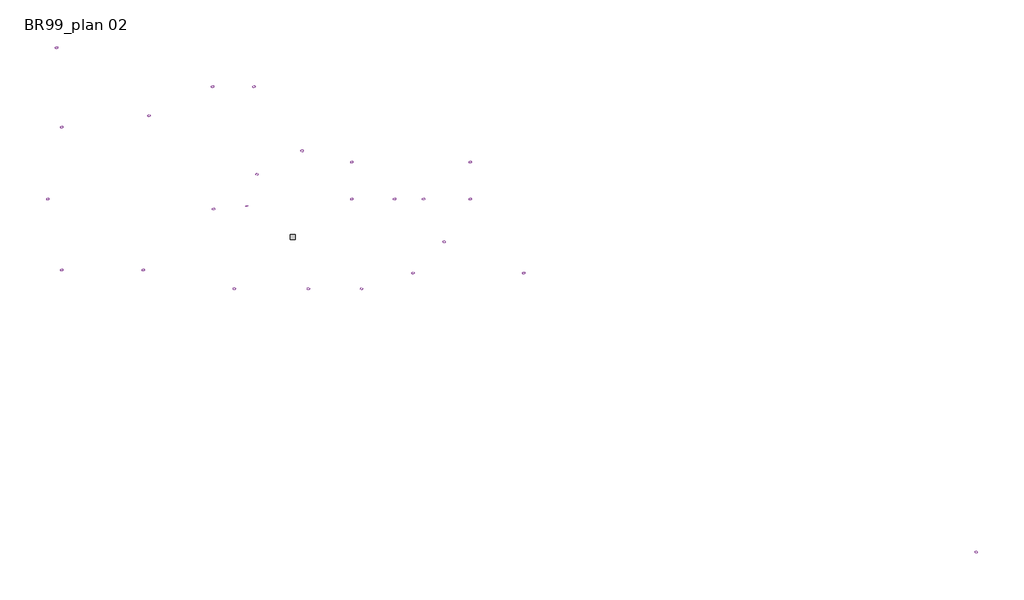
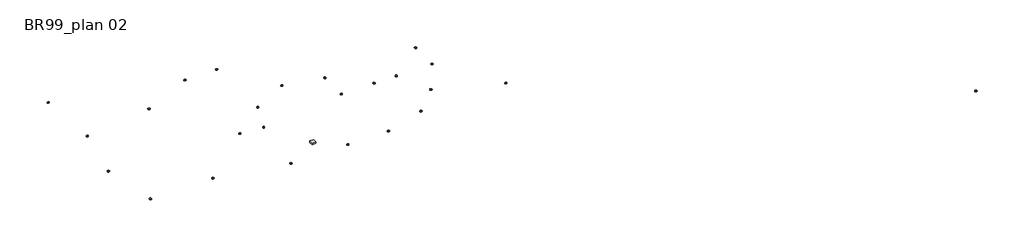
# One storey: 26 alarms.
"""IFC4 building model written with IfcOpenShell, lengths in millimetres."""

import ifcopenshell
import ifcopenshell.guid

model = None  # the IFC model being written
_history = None  # IfcOwnerHistory: only IFC2X3 demands one
_inside = {}  # id of a spatial element -> (the spatial element, [elements in it])
_under = {}  # id of a project, library or spatial element -> (it, [spatial elements below it])
_declared = {}  # id of a project -> (the project, [libraries it declares])
_typed = {}  # id of a type object -> (the type object, [elements of that type])
_made_of = {}  # id of a material, layer set ... -> (it, [elements and type objects made of it])


def new_model(schema):
    """Start an empty IFC model of exactly this schema.

    Asked for "IFC4X3", IfcOpenShell would pick the latest addendum, in which some entities
    have other attributes; the version numbers below select the first issue.
    IFC2X3 requires an IfcOwnerHistory on every rooted entity: one is made here for all.
    """
    global model, _history
    if schema == "IFC4X3":
        model = ifcopenshell.file(schema_version=(4, 3, 0, 0))
    else:
        model = ifcopenshell.file(schema=schema)
    _inside.clear()
    _under.clear()
    _declared.clear()
    _typed.clear()
    _made_of.clear()
    _history = None
    if model.schema == "IFC2X3":
        org = make("IfcOrganization", Name="unknown")
        user = make(
            "IfcPersonAndOrganization",
            ThePerson=make("IfcPerson", FamilyName="unknown"),
            TheOrganization=org,
        )
        app = make(
            "IfcApplication",
            ApplicationDeveloper=org,
            Version="unknown",
            ApplicationFullName="unknown",
            ApplicationIdentifier="unknown",
        )
        _history = make(
            "IfcOwnerHistory",
            OwningUser=user,
            OwningApplication=app,
            ChangeAction="ADDED",
            CreationDate=0,
        )
    return model


def make(cls, **values):
    """One entity of the class cls with the attributes given. An attribute that is None is left unset."""
    return model.create_entity(
        cls, **{name: value for name, value in values.items() if value is not None}
    )


def rooted(cls, **values):
    """An entity with a GlobalId (a new one), such as an element, a storey or a relation."""
    return make(cls, GlobalId=ifcopenshell.guid.new(), OwnerHistory=_history, **values)


def si_unit(unit_type, name, prefix=None):
    """IfcSIUnit, for example si_unit("LENGTHUNIT", "METRE", prefix="MILLI")."""
    return make("IfcSIUnit", UnitType=unit_type, Prefix=prefix, Name=name)


def assignment(units):
    """IfcUnitAssignment: the units of a project."""
    return None if units is None else make("IfcUnitAssignment", Units=units)


def point(xyz):
    """IfcCartesianPoint."""
    return None if xyz is None else make("IfcCartesianPoint", Coordinates=xyz)


def direction(xyz):
    """IfcDirection."""
    return None if xyz is None else make("IfcDirection", DirectionRatios=xyz)


def frame(location, z_axis=None, x_axis=None):
    """IfcAxis2Placement3D, a coordinate frame: its origin and axes. An axis left out is left unset."""
    return make(
        "IfcAxis2Placement3D",
        Location=point(location),
        Axis=direction(z_axis),
        RefDirection=direction(x_axis),
    )


def frame_2d(location, x_axis=None):
    """IfcAxis2Placement2D, a coordinate frame in the plane: its origin and x axis."""
    return make(
        "IfcAxis2Placement2D", Location=point(location), RefDirection=direction(x_axis)
    )


def origin():
    """The frame at (0, 0, 0) with its axes left unset."""
    return frame((0.0, 0.0, 0.0))


def place(relative_to, where):
    """IfcLocalPlacement: puts the frame where relative to a parent placement (None: the world)."""
    return make(
        "IfcLocalPlacement", PlacementRelTo=relative_to, RelativePlacement=where
    )


def context(
    kind, dimensions, precision=None, world=None, true_north=None, identifier=None
):
    """IfcGeometricRepresentationContext, for example the 3D "Model" context."""
    return make(
        "IfcGeometricRepresentationContext",
        ContextIdentifier=identifier,
        ContextType=kind,
        CoordinateSpaceDimension=dimensions,
        Precision=precision,
        WorldCoordinateSystem=world,
        TrueNorth=true_north,
    )


def project(units=None, contexts=None):
    """IfcProject with its units and contexts."""
    return rooted(
        "IfcProject",
        Name="project",
        RepresentationContexts=contexts,
        UnitsInContext=assignment(units),
    )


def spatial(cls, under=None, at=None, **own):
    """A site, building, storey or space (cls), placed at a placement, below another one or the project."""
    s = rooted(cls, ObjectPlacement=at, **own)
    if under is not None:
        _under.setdefault(under.id(), (under, []))[1].append(s)
    return s


def polyline(points):
    """IfcPolyline through the points."""
    return make("IfcPolyline", Points=[point(p) for p in points])


def circle_curve(where, radius):
    """IfcCircle in the frame where."""
    return make("IfcCircle", Position=where, Radius=radius)


def ellipse_curve(where, semi_axis1, semi_axis2):
    """IfcEllipse in the frame where."""
    return make(
        "IfcEllipse", Position=where, SemiAxis1=semi_axis1, SemiAxis2=semi_axis2
    )


def trimmed(basis, trim1, trim2, sense, master):
    """IfcTrimmedCurve: the piece of a basis curve between two trims."""
    return make(
        "IfcTrimmedCurve",
        BasisCurve=basis,
        Trim1=trim1,
        Trim2=trim2,
        SenseAgreement=sense,
        MasterRepresentation=master,
    )


def segment(curve, same_sense, transition):
    """IfcCompositeCurveSegment."""
    return make(
        "IfcCompositeCurveSegment",
        Transition=transition,
        SameSense=same_sense,
        ParentCurve=curve,
    )


def composite_curve(segments, self_intersect=None):
    """IfcCompositeCurve: segments joined end to end."""
    return make("IfcCompositeCurve", Segments=segments, SelfIntersect=self_intersect)


def outline(outer, holes=None, kind="AREA"):
    """IfcArbitraryClosedProfileDef: a profile drawn as a closed curve; with holes, ...WithVoids."""
    if holes is None:
        return make("IfcArbitraryClosedProfileDef", ProfileType=kind, OuterCurve=outer)
    return make(
        "IfcArbitraryProfileDefWithVoids",
        ProfileType=kind,
        OuterCurve=outer,
        InnerCurves=holes,
    )


def extrude(swept, where, along, depth):
    """IfcExtrudedAreaSolid: the profile swept, set in the frame where, extruded along a direction by depth."""
    return make(
        "IfcExtrudedAreaSolid",
        SweptArea=swept,
        Position=where,
        ExtrudedDirection=direction(along),
        Depth=depth,
    )


def shape(context_of_items, identifier, shape_type, items):
    """IfcShapeRepresentation: the items that make up one representation, for example the "Body"."""
    return make(
        "IfcShapeRepresentation",
        ContextOfItems=context_of_items,
        RepresentationIdentifier=identifier,
        RepresentationType=shape_type,
        Items=items,
    )


def source(mapping_origin, context_of_items, identifier, shape_type, items):
    """IfcRepresentationMap: a shape defined once, which mapped items show again and again."""
    return make(
        "IfcRepresentationMap",
        MappingOrigin=mapping_origin,
        MappedRepresentation=shape(context_of_items, identifier, shape_type, items),
    )


def transform(
    local_origin,
    x_axis=None,
    y_axis=None,
    z_axis=None,
    scale=None,
    scale2=None,
    scale3=None,
    uniform=True,
):
    """IfcCartesianTransformationOperator3D, or its non-uniform kind. x_axis, y_axis, z_axis: its Axis1, 2, 3."""
    if uniform:
        return make(
            "IfcCartesianTransformationOperator3D",
            Axis1=direction(x_axis),
            Axis2=direction(y_axis),
            LocalOrigin=point(local_origin),
            Scale=scale,
            Axis3=direction(z_axis),
        )
    return make(
        "IfcCartesianTransformationOperator3DnonUniform",
        Axis1=direction(x_axis),
        Axis2=direction(y_axis),
        LocalOrigin=point(local_origin),
        Scale=scale,
        Axis3=direction(z_axis),
        Scale2=scale2,
        Scale3=scale3,
    )


def mapped(mapping_source, mapping_target):
    """IfcMappedItem: shows the shape of a source again, moved by a transform."""
    return make(
        "IfcMappedItem", MappingSource=mapping_source, MappingTarget=mapping_target
    )


def made_of(thing, what):
    """Note that an element or type object is made of a material, layer set ...; save() writes the relation."""
    if what is not None:
        _made_of.setdefault(what.id(), (what, []))[1].append(thing)
    return thing


def element(
    cls,
    number,
    at=None,
    inside=None,
    cuts=None,
    type_object=None,
    material=None,
    context=None,
    identifier="Body",
    shape_type=None,
    held_by="IfcProductDefinitionShape",
    body=None,
    shapes=None,
    **own,
):
    """One element of the class cls, such as IfcWall. Its Tag is "e" and its number.

    at: its placement. inside: the storey or other place that contains it. cuts: it is an
    opening in that element (IfcRelVoidsElement). A single representation is given by context,
    identifier, shape_type and body (its items); several are given by shapes. held_by: the class
    of the entity that holds the representations. save() writes the other relations.
    """
    e = rooted(cls, Tag="e%d" % number, ObjectPlacement=at, **own)
    if body is not None:
        shapes = [shape(context, identifier, shape_type, body)]
    if shapes is not None:
        e.Representation = make(held_by, Representations=shapes)
    if inside is not None:
        _inside.setdefault(inside.id(), (inside, []))[1].append(e)
    if cuts is not None:
        rooted(
            "IfcRelVoidsElement", RelatingBuildingElement=cuts, RelatedOpeningElement=e
        )
    if type_object is not None:
        _typed.setdefault(type_object.id(), (type_object, []))[1].append(e)
    return made_of(e, material)


def aggregate(whole, parts):
    """IfcRelAggregates: a whole, such as a stair, and the parts it consists of."""
    return rooted("IfcRelAggregates", RelatingObject=whole, RelatedObjects=parts)


def save(model, path):
    """Write the relations noted so far, then the file.

    IfcRelAggregates (storeys below a building ...), IfcRelContainedInSpatialStructure (elements
    in a storey), IfcRelDefinesByType, IfcRelAssociatesMaterial and IfcRelDeclares: one each for
    every whole, place, type object, material and project.
    """
    for whole, parts in _under.values():
        aggregate(whole, parts)
    for where, things in _inside.values():
        rooted(
            "IfcRelContainedInSpatialStructure",
            RelatedElements=things,
            RelatingStructure=where,
        )
    for kind, things in _typed.values():
        rooted("IfcRelDefinesByType", RelatedObjects=things, RelatingType=kind)
    for what, things in _made_of.values():
        rooted("IfcRelAssociatesMaterial", RelatedObjects=things, RelatingMaterial=what)
    for by, libraries in _declared.values():
        rooted("IfcRelDeclares", RelatingContext=by, RelatedDefinitions=libraries)
    model.write(path)


def plane_surface(at):
    """IfcPlane: the flat surface through the origin of the frame at, square to its z axis."""
    return make("IfcPlane", Position=at)


def cylinder_surface(at, radius):
    """IfcCylindricalSurface: all points at the distance radius from the z axis of the frame at."""
    return make("IfcCylindricalSurface", Position=at, Radius=radius)


def revolved_surface(curve, axis_point, axis_direction):
    """IfcSurfaceOfRevolution: the curve turned about the line through axis_point along axis_direction."""
    return make(
        "IfcSurfaceOfRevolution",
        SweptCurve=make("IfcArbitraryOpenProfileDef", ProfileType="CURVE", Curve=curve),
        AxisPosition=make("IfcAxis1Placement", Location=point(axis_point), Axis=direction(axis_direction)),
    )


def advanced_brep(points, edges, surfaces, faces):
    """IfcAdvancedBrep: a solid bounded by faces that lie on surfaces and meet in shared edges.

    An edge is (start, end): straight between two places in points (the first is 0);
    or (start, end, curve); or (start, end, curve, False) where it runs against its curve.
    A face is (place in surfaces, loops), or (place, loops, False) where it looks against
    its surface's normal. A loop lists edges by number (the first is 1), with a minus sign
    where the edge is run from its end to its start. The first loop is the outer one.
    """
    corners = [point(p) for p in points]
    vertices = [make("IfcVertexPoint", VertexGeometry=c) for c in corners]
    made = []
    for start, end, *more in edges:
        made.append(
            make(
                "IfcEdgeCurve",
                EdgeStart=vertices[start],
                EdgeEnd=vertices[end],
                EdgeGeometry=more[0] if more else make("IfcPolyline", Points=[corners[start], corners[end]]),
                SameSense=more[1] if len(more) > 1 else True,
            )
        )
    hull = []
    for where, loops, *sense in faces:
        bounds = []
        for j, loop in enumerate(loops):
            ring = [make("IfcOrientedEdge", EdgeElement=made[abs(k) - 1], Orientation=k > 0) for k in loop]
            bounds.append(
                make(
                    "IfcFaceOuterBound" if j == 0 else "IfcFaceBound",
                    Bound=make("IfcEdgeLoop", EdgeList=ring),
                    Orientation=True,
                )
            )
        hull.append(make("IfcAdvancedFace", Bounds=bounds, FaceSurface=surfaces[where], SameSense=sense[0] if sense else True))
    return make("IfcAdvancedBrep", Outer=make("IfcClosedShell", CfsFaces=hull))


def alarm_2d409914(model_context):
    return source(origin(), model_context, "Body", "SolidModel", [
        advanced_brep(
        [(0.0, -25.0, 1950.0), (50.0, -25.0, 1950.0), (-50.0, -25.0, 1950.0), (-14.3707549, -61.8201941, 1950.0), (14.3707549, -61.8201941, 1950.0), (0.0, -61.8201941, 1950.0), (-14.3707549, -56.8201941, 1950.0), (14.3707549, -56.8201941, 1950.0), (-29.3707549, -56.8201941, 1950.0), (29.3707549, -56.8201941, 1950.0), (-29.3707549, -61.8201941, 1950.0), (29.3707549, -61.8201941, 1950.0), (-34.3707549, -61.8201941, 1950.0), (34.3707549, -61.8201941, 1950.0)],
        [
            (0, 1),
            (1, 2, circle_curve(frame((0.0, -25.0, 1950.0), z_axis=(0.0, 1.0, 0.0), x_axis=(1.0, 0.0, 0.0)), 50.0)),
            (2, 0),
            (2, 1, circle_curve(frame((0.0, -25.0, 1950.0), z_axis=(0.0, 1.0, 0.0), x_axis=(1.0, 0.0, 0.0)), 50.0)),
            (3, 4, circle_curve(frame((0.0, -61.8201941, 1950.0), z_axis=(0.0, -1.0, 0.0), x_axis=(1.0, 0.0, 0.0)), 14.3707549)),
            (4, 5),
            (5, 3),
            (4, 3, circle_curve(frame((0.0, -61.8201941, 1950.0), z_axis=(0.0, -1.0, 0.0), x_axis=(1.0, 0.0, 0.0)), 14.3707549)),
            (6, 7, circle_curve(frame((0.0, -56.8201941, 1950.0), z_axis=(0.0, -1.0, 0.0), x_axis=(1.0, 0.0, 0.0)), 14.3707549)),
            (7, 4),
            (3, 6),
            (7, 6, circle_curve(frame((0.0, -56.8201941, 1950.0), z_axis=(0.0, -1.0, 0.0), x_axis=(1.0, 0.0, 0.0)), 14.3707549)),
            (8, 9, circle_curve(frame((0.0, -56.8201941, 1950.0), z_axis=(0.0, -1.0, 0.0), x_axis=(1.0, 0.0, 0.0)), 29.3707549)),
            (9, 7),
            (6, 8),
            (9, 8, circle_curve(frame((0.0, -56.8201941, 1950.0), z_axis=(0.0, -1.0, 0.0), x_axis=(1.0, 0.0, 0.0)), 29.3707549)),
            (10, 11, circle_curve(frame((0.0, -61.8201941, 1950.0), z_axis=(0.0, -1.0, 0.0), x_axis=(1.0, 0.0, 0.0)), 29.3707549)),
            (11, 9),
            (8, 10),
            (11, 10, circle_curve(frame((0.0, -61.8201941, 1950.0), z_axis=(0.0, -1.0, 0.0), x_axis=(1.0, 0.0, 0.0)), 29.3707549)),
            (12, 13, circle_curve(frame((0.0, -61.8201941, 1950.0), z_axis=(0.0, -1.0, 0.0), x_axis=(1.0, 0.0, 0.0)), 34.3707549)),
            (13, 11),
            (10, 12),
            (13, 12, circle_curve(frame((0.0, -61.8201941, 1950.0), z_axis=(0.0, -1.0, 0.0), x_axis=(1.0, 0.0, 0.0)), 34.3707549)),
            (1, 13, circle_curve(frame((-4.2691398, -23.6913244, 1950.0), z_axis=(0.0, 0.0, -1.0), x_axis=(1.0, 0.0, 0.0)), 54.2849166)),
            (12, 2, circle_curve(frame((4.2691398, -23.6913244, 1950.0), z_axis=(0.0, 0.0, -1.0), x_axis=(-1.0, 0.0, 0.0)), 54.2849166)),
        ],
        [
            plane_surface(frame((0.0, -25.0, 1950.0), z_axis=(0.0, 1.0, 0.0), x_axis=(1.0, 0.0, 0.0))),
            plane_surface(frame((0.0, -61.8201941, 1950.0), z_axis=(0.0, -1.0, 0.0), x_axis=(1.0, 0.0, 0.0))),
            cylinder_surface(frame((0.0, 0.0, 1950.0), z_axis=(0.0, 1.0, 0.0), x_axis=(1.0, 0.0, 0.0)), 14.3707549),
            plane_surface(frame((0.0, -56.8201941, 1950.0), z_axis=(0.0, -1.0, 0.0), x_axis=(1.0, 0.0, 0.0))),
            revolved_surface(polyline([(29.3707549, -56.8201941, 1950.0), (29.3707549, -61.8201941, 1950.0)]), (0.0, 0.0, 1950.0), (0.0, 1.0, 0.0)),
            revolved_surface(trimmed(ellipse_curve(frame((-4.2691398, -23.6913244, 1950.0), z_axis=(0.0, 0.0, 1.0), x_axis=(1.0, 0.0, 0.0)), 54.2849166, 54.2849166), [point((34.3707549, -61.8201941, 1950.0))], [point((50.0, -25.0, 1950.0))], True, "CARTESIAN"), (0.0, 0.0, 1950.0), (0.0, 1.0, 0.0)),
        ],
        [
            (0, [[1, 2, 3]]),
            (0, [[-3, 4, -1]]),
            (1, [[5, 6, 7]]),
            (1, [[8, -7, -6]]),
            (2, [[9, 10, -5, 11]]),
            (2, [[12, -11, -8, -10]]),
            (3, [[13, 14, -9, 15]]),
            (3, [[16, -15, -12, -14]]),
            (4, [[17, 18, -13, 19]]),
            (4, [[20, -19, -16, -18]]),
            (1, [[21, 22, -17, 23]]),
            (1, [[24, -23, -20, -22]]),
            (5, [[-2, 25, -21, 26]]),
            (5, [[-4, -26, -24, -25]]),
        ],
    ),
        extrude(outline(composite_curve([segment(trimmed(circle_curve(frame_2d((1950.0, 0.0)), 50.0), [point((1950.0, -50.0))], [point((1950.0, 50.0))], False, "CARTESIAN"), True, "CONTINUOUS"), segment(trimmed(circle_curve(frame_2d((1950.0, 0.0)), 50.0), [point((1950.0, 50.0))], [point((1950.0, -50.0))], False, "CARTESIAN"), True, "CONTINUOUS")], self_intersect=False)), frame((0.0, -25.0, 0.0), z_axis=(0.0, 1.0, 0.0), x_axis=(0.0, 0.0, 1.0)), (0.0, 0.0, 1.0), 25.0),
    ])


def alarm_d4f96eb5(model_context):
    return source(origin(), model_context, "Body", "AdvancedBrep", [
        advanced_brep(
        [(-60.0, 0.0, 2172.6505767), (60.0, 0.0, 2172.6505767), (55.0, 0.0, 2172.6505767), (-55.0, 0.0, 2172.6505767), (-60.0, 0.0, 2200.0), (60.0, 0.0, 2200.0), (0.0, 0.0, 2200.0), (-45.0, 0.0, 2152.6505767), (45.0, 0.0, 2152.6505767), (0.0, 0.0, 2152.6505767), (-45.0, 0.0, 2162.6505767), (45.0, 0.0, 2162.6505767), (-55.0, 0.0, 2162.6505767), (55.0, 0.0, 2162.6505767)],
        [
            (0, 1, circle_curve(frame((0.0, 0.0, 2172.6505767), z_axis=(0.0, 0.0, -1.0), x_axis=(1.0, 0.0, 0.0)), 60.0)),
            (1, 2),
            (2, 3, circle_curve(frame((0.0, 0.0, 2172.6505767), z_axis=(0.0, 0.0, 1.0), x_axis=(1.0, 0.0, 0.0)), 55.0)),
            (3, 0),
            (1, 0, circle_curve(frame((0.0, 0.0, 2172.6505767), z_axis=(0.0, 0.0, -1.0), x_axis=(1.0, 0.0, 0.0)), 60.0)),
            (3, 2, circle_curve(frame((0.0, 0.0, 2172.6505767), z_axis=(0.0, 0.0, 1.0), x_axis=(1.0, 0.0, 0.0)), 55.0)),
            (4, 5, circle_curve(frame((0.0, 0.0, 2200.0), z_axis=(0.0, 0.0, -1.0), x_axis=(1.0, 0.0, 0.0)), 60.0)),
            (5, 1),
            (0, 4),
            (5, 4, circle_curve(frame((0.0, 0.0, 2200.0), z_axis=(0.0, 0.0, -1.0), x_axis=(1.0, 0.0, 0.0)), 60.0)),
            (6, 5),
            (4, 6),
            (7, 8, circle_curve(frame((0.0, 0.0, 2152.6505767), z_axis=(0.0, 0.0, -1.0), x_axis=(1.0, 0.0, 0.0)), 45.0)),
            (8, 9),
            (9, 7),
            (8, 7, circle_curve(frame((0.0, 0.0, 2152.6505767), z_axis=(0.0, 0.0, -1.0), x_axis=(1.0, 0.0, 0.0)), 45.0)),
            (10, 11, circle_curve(frame((0.0, 0.0, 2162.6505767), z_axis=(0.0, 0.0, -1.0), x_axis=(1.0, 0.0, 0.0)), 45.0)),
            (11, 8),
            (7, 10),
            (11, 10, circle_curve(frame((0.0, 0.0, 2162.6505767), z_axis=(0.0, 0.0, -1.0), x_axis=(1.0, 0.0, 0.0)), 45.0)),
            (12, 13, circle_curve(frame((0.0, 0.0, 2162.6505767), z_axis=(0.0, 0.0, -1.0), x_axis=(1.0, 0.0, 0.0)), 55.0)),
            (13, 11),
            (10, 12),
            (13, 12, circle_curve(frame((0.0, 0.0, 2162.6505767), z_axis=(0.0, 0.0, -1.0), x_axis=(1.0, 0.0, 0.0)), 55.0)),
            (2, 13),
            (12, 3),
        ],
        [
            plane_surface(frame((0.0, 0.0, 2172.6505767), z_axis=(0.0, 0.0, -1.0), x_axis=(1.0, 0.0, 0.0))),
            cylinder_surface(frame((0.0, 0.0, 2152.6505767), z_axis=(0.0, 0.0, 1.0), x_axis=(1.0, 0.0, 0.0)), 60.0),
            plane_surface(frame((0.0, 0.0, 2200.0), z_axis=(0.0, 0.0, 1.0), x_axis=(1.0, 0.0, 0.0))),
            plane_surface(frame((0.0, 0.0, 2152.6505767), z_axis=(0.0, 0.0, -1.0), x_axis=(1.0, 0.0, 0.0))),
            cylinder_surface(frame((0.0, 0.0, 2152.6505767), z_axis=(0.0, 0.0, 1.0), x_axis=(1.0, 0.0, 0.0)), 45.0),
            plane_surface(frame((0.0, 0.0, 2162.6505767), z_axis=(0.0, 0.0, -1.0), x_axis=(1.0, 0.0, 0.0))),
            cylinder_surface(frame((0.0, 0.0, 2152.6505767), z_axis=(0.0, 0.0, 1.0), x_axis=(1.0, 0.0, 0.0)), 55.0),
        ],
        [
            (0, [[1, 2, 3, 4]]),
            (0, [[5, -4, 6, -2]]),
            (1, [[7, 8, -1, 9]]),
            (1, [[10, -9, -5, -8]]),
            (2, [[11, -7, 12]]),
            (2, [[-12, -10, -11]]),
            (3, [[13, 14, 15]]),
            (3, [[16, -15, -14]]),
            (4, [[17, 18, -13, 19]]),
            (4, [[20, -19, -16, -18]]),
            (5, [[21, 22, -17, 23]]),
            (5, [[24, -23, -20, -22]]),
            (6, [[-3, 25, -21, 26]]),
            (6, [[-6, -26, -24, -25]]),
        ],
    ),
    ])


def alarm_f33bc343(model_context):
    return source(origin(), model_context, "Body", "SweptSolid", [
        extrude(outline(polyline([(112.0750626, 112.0073303), (112.0750626, -111.5662175), (-111.4984851, -111.5662175), (-111.4984851, 112.0073303), (112.0750626, 112.0073303)])), frame((0.0, 0.0, 1100.0), z_axis=(0.0, 0.0, 1.0), x_axis=(1.0, 0.0, 0.0)), (0.0, 0.0, 1.0), 100.0),
    ])


model = new_model("IFC4")

# Units and contexts
model_context = context("Model", 3, world=origin())
ifc_project = project(units=[si_unit("LENGTHUNIT", "METRE", prefix="MILLI")], contexts=[model_context])

# Site, building, storey
site = spatial("IfcSite", under=ifc_project)
building = spatial("IfcBuilding", under=site)
storey = spatial("IfcBuildingStorey", under=building, Name="BR99_plan 02", Elevation=3000.0)

# Alarms
placement = place(None, origin())
alarm_shape = alarm_2d409914(model_context)
element("IfcAlarm", 1, ObjectType="Akustiskt larmdon : Akustiskt larmdon", at=placement, inside=storey, context=model_context, shape_type="MappedRepresentation", body=[
    mapped(alarm_shape, transform((-68653.1887978, -126024.8901624, 3000.0), x_axis=(1.0, 0.0, 0.0), y_axis=(0.0, 1.0, 0.0), z_axis=(0.0, 0.0, 1.0))),
])
alarm_2_shape = alarm_d4f96eb5(model_context)
element("IfcAlarm", 2, ObjectType="Rökdetektor : Rökdetektor", at=placement, inside=storey, context=model_context, shape_type="MappedRepresentation", body=[
    mapped(alarm_2_shape, transform((-77377.8523409, -118801.376786, 3000.0), x_axis=(1.0, 0.0, 0.0), y_axis=(0.0, 1.0, 0.0), z_axis=(0.0, 0.0, 1.0))),
])
element("IfcAlarm", 3, ObjectType="Rökdetektor : Rökdetektor", at=placement, inside=storey, context=model_context, shape_type="MappedRepresentation", body=[
    mapped(alarm_2_shape, transform((-77140.388201, -122446.6369405, 3000.0), x_axis=(1.0, 0.0, 0.0), y_axis=(0.0, 1.0, 0.0), z_axis=(0.0, 0.0, 1.0))),
])
element("IfcAlarm", 4, ObjectType="Rökdetektor : Rökdetektor", at=placement, inside=storey, context=model_context, shape_type="MappedRepresentation", body=[
    mapped(alarm_2_shape, transform((-68321.5608843, -120587.3901624, 3000.0), x_axis=(1.0, 0.0, 0.0), y_axis=(0.0, 1.0, 0.0), z_axis=(0.0, 0.0, 1.0))),
])
element("IfcAlarm", 5, ObjectType="Rökdetektor : Rökdetektor", at=placement, inside=storey, context=model_context, shape_type="MappedRepresentation", body=[
    mapped(alarm_2_shape, transform((-70219.4726069, -120587.3901624, 3000.0), x_axis=(1.0, 0.0, 0.0), y_axis=(0.0, 1.0, 0.0), z_axis=(0.0, 0.0, 1.0))),
])
element("IfcAlarm", 6, ObjectType="Rökdetektor : Rökdetektor", at=placement, inside=storey, context=model_context, shape_type="MappedRepresentation", body=[
    mapped(alarm_2_shape, transform((-77140.388201, -129003.5515613, 3000.0), x_axis=(1.0, 0.0, 0.0), y_axis=(0.0, 1.0, 0.0), z_axis=(0.0, 0.0, 1.0))),
])
element("IfcAlarm", 7, ObjectType="Rökdetektor : Rökdetektor", at=placement, inside=storey, context=model_context, shape_type="MappedRepresentation", body=[
    mapped(alarm_2_shape, transform((-73401.6534987, -129003.5515613, 3000.0), x_axis=(1.0, 0.0, 0.0), y_axis=(0.0, 1.0, 0.0), z_axis=(0.0, 0.0, 1.0))),
])
element("IfcAlarm", 8, ObjectType="Rökdetektor : Rökdetektor", at=placement, inside=storey, context=model_context, shape_type="MappedRepresentation", body=[
    mapped(alarm_2_shape, transform((-69227.4705523, -129865.8240948, 3000.0), x_axis=(1.0, 0.0, 0.0), y_axis=(0.0, 1.0, 0.0), z_axis=(0.0, 0.0, 1.0))),
])
element("IfcAlarm", 9, ObjectType="Rökdetektor : Rökdetektor", at=placement, inside=storey, context=model_context, shape_type="MappedRepresentation", body=[
    mapped(alarm_2_shape, transform((-77778.573077, -125743.856497, 3000.0), x_axis=(1.0, 0.0, 0.0), y_axis=(0.0, 1.0, 0.0), z_axis=(0.0, 0.0, 1.0))),
])
element("IfcAlarm", 10, ObjectType="Rökdetektor : Rökdetektor", at=placement, inside=storey, context=model_context, shape_type="MappedRepresentation", body=[
    mapped(alarm_2_shape, transform((-35181.4544108, -141955.3511046, 3000.0), x_axis=(1.0, 0.0, 0.0), y_axis=(0.0, 1.0, 0.0), z_axis=(0.0, 0.0, 1.0))),
])
element("IfcAlarm", 11, ObjectType="Rökdetektor : Rökdetektor", at=placement, inside=storey, context=model_context, shape_type="MappedRepresentation", body=[
    mapped(alarm_2_shape, transform((-73135.6663536, -121920.1064305, 3000.0), x_axis=(1.0, 0.0, 0.0), y_axis=(0.0, 1.0, 0.0), z_axis=(0.0, 0.0, 1.0))),
])
element("IfcAlarm", 12, ObjectType="Rökdetektor : Rökdetektor", at=placement, inside=storey, context=model_context, shape_type="MappedRepresentation", body=[
    mapped(alarm_2_shape, transform((-66114.4726069, -123530.9585152, 3000.0), x_axis=(1.0, 0.0, 0.0), y_axis=(0.0, 1.0, 0.0), z_axis=(0.0, 0.0, 1.0))),
])
element("IfcAlarm", 13, ObjectType="Rökdetektor : Rökdetektor", at=placement, inside=storey, context=model_context, shape_type="MappedRepresentation", body=[
    mapped(alarm_2_shape, transform((-65821.6585003, -129865.8240948, 3000.0), x_axis=(1.0, 0.0, 0.0), y_axis=(0.0, 1.0, 0.0), z_axis=(0.0, 0.0, 1.0))),
])
element("IfcAlarm", 14, ObjectType="Rökdetektor : Rökdetektor", at=placement, inside=storey, context=model_context, shape_type="MappedRepresentation", body=[
    mapped(alarm_2_shape, transform((-63384.8013403, -129865.8240948, 3000.0), x_axis=(1.0, 0.0, 0.0), y_axis=(0.0, 1.0, 0.0), z_axis=(0.0, 0.0, 1.0))),
])
element("IfcAlarm", 15, ObjectType="Rökdetektor : Rökdetektor", at=placement, inside=storey, context=model_context, shape_type="MappedRepresentation", body=[
    mapped(alarm_2_shape, transform((-61021.814304, -129147.2998239, 3000.0), x_axis=(1.0, 0.0, 0.0), y_axis=(0.0, 1.0, 0.0), z_axis=(0.0, 0.0, 1.0))),
])
element("IfcAlarm", 16, ObjectType="Rökdetektor : Rökdetektor", at=placement, inside=storey, context=model_context, shape_type="MappedRepresentation", body=[
    mapped(alarm_2_shape, transform((-55940.1249209, -129147.2998239, 3000.0), x_axis=(1.0, 0.0, 0.0), y_axis=(0.0, 1.0, 0.0), z_axis=(0.0, 0.0, 1.0))),
])
element("IfcAlarm", 17, ObjectType="Rökdetektor : Rökdetektor", at=placement, inside=storey, context=model_context, shape_type="MappedRepresentation", body=[
    mapped(alarm_2_shape, transform((-63828.3951701, -125743.856497, 3000.0), x_axis=(1.0, 0.0, 0.0), y_axis=(0.0, 1.0, 0.0), z_axis=(0.0, 0.0, 1.0))),
])
element("IfcAlarm", 18, ObjectType="Rökdetektor : Rökdetektor", at=placement, inside=storey, context=model_context, shape_type="MappedRepresentation", body=[
    mapped(alarm_2_shape, transform((-61867.7050115, -125743.856497, 3000.0), x_axis=(1.0, 0.0, 0.0), y_axis=(0.0, 1.0, 0.0), z_axis=(0.0, 0.0, 1.0))),
])
element("IfcAlarm", 19, ObjectType="Rökdetektor : Rökdetektor", at=placement, inside=storey, context=model_context, shape_type="MappedRepresentation", body=[
    mapped(alarm_2_shape, transform((-60538.0415706, -125743.856497, 3000.0), x_axis=(1.0, 0.0, 0.0), y_axis=(0.0, 1.0, 0.0), z_axis=(0.0, 0.0, 1.0))),
])
element("IfcAlarm", 20, ObjectType="Rökdetektor : Rökdetektor", at=placement, inside=storey, context=model_context, shape_type="MappedRepresentation", body=[
    mapped(alarm_2_shape, transform((-58397.058064, -124045.1085762, 3000.0), x_axis=(1.0, 0.0, 0.0), y_axis=(0.0, 1.0, 0.0), z_axis=(0.0, 0.0, 1.0))),
])
element("IfcAlarm", 21, ObjectType="Rökdetektor dold : Rökdetektor dold", at=placement, inside=storey, context=model_context, shape_type="MappedRepresentation", body=[
    mapped(alarm_2_shape, transform((-70175.1049769, -126201.3453746, 3000.0), x_axis=(1.0, 0.0, 0.0), y_axis=(0.0, 1.0, 0.0), z_axis=(0.0, 0.0, 1.0))),
])
element("IfcAlarm", 22, ObjectType="Rökdetektor dold : Rökdetektor dold", at=placement, inside=storey, context=model_context, shape_type="MappedRepresentation", body=[
    mapped(alarm_2_shape, transform((-59593.7215055, -127707.3951749, 3000.0), x_axis=(1.0, 0.0, 0.0), y_axis=(0.0, 1.0, 0.0), z_axis=(0.0, 0.0, 1.0))),
])
element("IfcAlarm", 23, ObjectType="Rökdetektor dold : Rökdetektor dold", at=placement, inside=storey, context=model_context, shape_type="MappedRepresentation", body=[
    mapped(alarm_2_shape, transform((-63828.3951701, -124045.1085762, 3000.0), x_axis=(1.0, 0.0, 0.0), y_axis=(0.0, 1.0, 0.0), z_axis=(0.0, 0.0, 1.0))),
])
element("IfcAlarm", 24, ObjectType="Rökdetektor dold : Rökdetektor dold", at=placement, inside=storey, context=model_context, shape_type="MappedRepresentation", body=[
    mapped(alarm_2_shape, transform((-58397.058064, -125743.856497, 3000.0), x_axis=(1.0, 0.0, 0.0), y_axis=(0.0, 1.0, 0.0), z_axis=(0.0, 0.0, 1.0))),
])
element("IfcAlarm", 25, ObjectType="Värmedetektor kapslad : Värmedetektor kapslad", at=placement, inside=storey, context=model_context, shape_type="MappedRepresentation", body=[
    mapped(alarm_2_shape, transform((-68181.3626798, -124613.6425469, 3000.0), x_axis=(1.0, 0.0, 0.0), y_axis=(0.0, 1.0, 0.0), z_axis=(0.0, 0.0, 1.0))),
])
alarm_3_shape = alarm_f33bc343(model_context)
element("IfcAlarm", 26, ObjectType="D1 : D1", at=placement, inside=storey, context=model_context, shape_type="MappedRepresentation", body=[
    mapped(alarm_3_shape, transform((-66544.4329185, -127499.8901624, 3000.0), x_axis=(1.0, 0.0, 0.0), y_axis=(0.0, 1.0, 0.0), z_axis=(0.0, 0.0, 1.0))),
])

save(model, "model.ifc")
